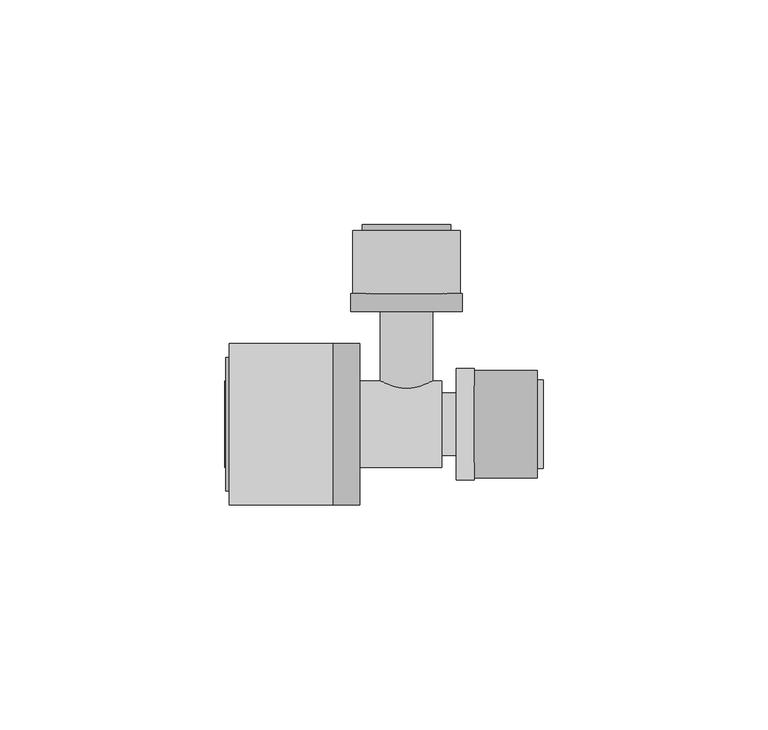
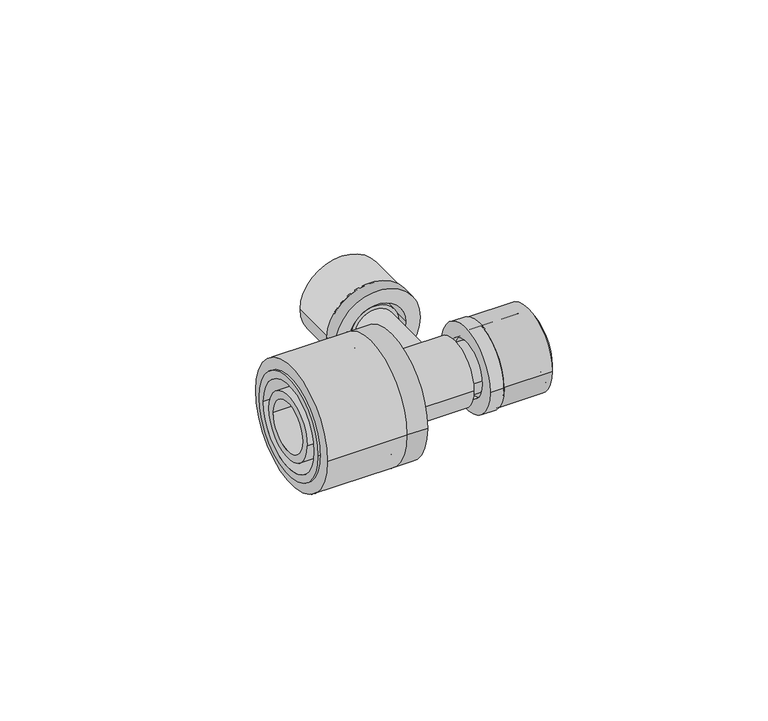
"""IFC4 building model written with IfcOpenShell, lengths in millimetres: pipe fitting geometry, FASTLOC_T-piece_EX+ : FSL T-Piece EX+ AT."""

from ifc_helpers import new_model, si_unit, point, frame, origin, origin_2d, place, context, project, spatial, polyline, circle_curve, trimmed, segment, composite_curve, outline, extrude, source, transform, mapped, element, save
from ifc_brep_helpers import plane_surface, cylinder_surface, revolved_surface, advanced_brep


def pipe_fitting_93b3fcde(model_context):
    return source(origin(), model_context, "Body", "SolidModel", [
        extrude(outline(composite_curve([segment(trimmed(circle_curve(origin_2d(), 12.0), [point((-12.0, 0.0))], [point((12.0, 0.0))], False, "CARTESIAN"), True, "CONTINUOUS"), segment(trimmed(circle_curve(origin_2d(), 12.0), [point((12.0, 0.0))], [point((-12.0, 0.0))], False, "CARTESIAN"), True, "CONTINUOUS")], self_intersect=False), holes=[composite_curve([segment(trimmed(circle_curve(origin_2d(), 8.85), [point((-8.85, 0.0))], [point((8.85, 0.0))], True, "CARTESIAN"), True, "CONTINUOUS"), segment(trimmed(circle_curve(origin_2d(), 8.85), [point((8.85, 0.0))], [point((-8.85, 0.0))], True, "CARTESIAN"), True, "CONTINUOUS")], self_intersect=False)]), frame((15.1, 0.0, 0.0), z_axis=(1.0, 0.0, 0.0), x_axis=(0.0, 1.0, 0.0)), (0.0, 0.0, 1.0), 14.0),
        advanced_brep(
        [(15.1, 12.35, 0.0), (15.1, -12.35, 0.0), (11.1, -12.35, 0.0), (11.1, 12.35, 0.0), (30.4, 9.85, 0.0), (30.4, -9.85, 0.0), (15.1, -9.85, 0.0), (15.1, 9.85, 0.0), (11.1, 8.15, 0.0), (11.1, -8.15, 0.0), (30.4, -8.15, 0.0), (30.4, 8.15, 0.0)],
        [
            (0, 1, circle_curve(frame((15.1, 0.0, 0.0), z_axis=(-1.0, 0.0, 0.0), x_axis=(0.0, -1.0, 0.0)), 12.35)),
            (1, 2),
            (2, 3, circle_curve(frame((11.1, 0.0, 0.0), z_axis=(1.0, 0.0, 0.0), x_axis=(0.0, -1.0, 0.0)), 12.35)),
            (3, 0),
            (4, 5, circle_curve(frame((30.4, 0.0, 0.0), z_axis=(-1.0, 0.0, 0.0), x_axis=(0.0, -1.0, 0.0)), 9.85)),
            (5, 6),
            (6, 7, circle_curve(frame((15.1, 0.0, 0.0), z_axis=(1.0, 0.0, 0.0), x_axis=(0.0, -1.0, 0.0)), 9.85)),
            (7, 4),
            (8, 9, circle_curve(frame((11.1, 0.0, 0.0), z_axis=(-1.0, 0.0, 0.0), x_axis=(0.0, -1.0, 0.0)), 8.15)),
            (9, 10),
            (10, 11, circle_curve(frame((30.4, 0.0, 0.0), z_axis=(1.0, 0.0, 0.0), x_axis=(0.0, -1.0, 0.0)), 8.15)),
            (11, 8),
            (1, 0, circle_curve(frame((15.1, 0.0, 0.0), z_axis=(-1.0, 0.0, 0.0), x_axis=(0.0, 1.0, 0.0)), 12.35)),
            (3, 2, circle_curve(frame((11.1, 0.0, 0.0), z_axis=(1.0, 0.0, 0.0), x_axis=(0.0, 1.0, 0.0)), 12.35)),
            (6, 7, circle_curve(frame((15.1, 0.0, 0.0), z_axis=(-1.0, 0.0, 0.0), x_axis=(0.0, 1.0, 0.0)), 9.85)),
            (5, 4, circle_curve(frame((30.4, 0.0, 0.0), z_axis=(-1.0, 0.0, 0.0), x_axis=(0.0, 1.0, 0.0)), 9.85)),
            (10, 11, circle_curve(frame((30.4, 0.0, 0.0), z_axis=(-1.0, 0.0, 0.0), x_axis=(0.0, 1.0, 0.0)), 8.15)),
            (9, 8, circle_curve(frame((11.1, 0.0, 0.0), z_axis=(-1.0, 0.0, 0.0), x_axis=(0.0, 1.0, 0.0)), 8.15)),
        ],
        [
            cylinder_surface(frame((11.1, 0.0, 0.0), z_axis=(1.0, 0.0, 0.0), x_axis=(0.0, -1.0, 0.0)), 12.35),
            cylinder_surface(frame((11.1, 0.0, 0.0), z_axis=(1.0, 0.0, 0.0), x_axis=(0.0, -1.0, 0.0)), 9.85),
            revolved_surface(polyline([(30.4, -8.15, 0.0), (11.1, -8.15, 0.0)]), (11.1, 0.0, 0.0), (1.0, 0.0, 0.0)),
            cylinder_surface(frame((11.1, 0.0, 0.0), z_axis=(1.0, 0.0, 0.0), x_axis=(0.0, 1.0, 0.0)), 12.35),
            plane_surface(frame((15.1, 0.0, 0.0), z_axis=(1.0, 0.0, 0.0), x_axis=(0.0, 1.0, 0.0))),
            cylinder_surface(frame((11.1, 0.0, 0.0), z_axis=(1.0, 0.0, 0.0), x_axis=(0.0, 1.0, 0.0)), 9.85),
            plane_surface(frame((30.4, 0.0, 0.0), z_axis=(1.0, 0.0, 0.0), x_axis=(0.0, 1.0, 0.0))),
            revolved_surface(polyline([(30.4, 8.15, 0.0), (11.1, 8.15, 0.0)]), (11.1, 0.0, 0.0), (1.0, 0.0, 0.0)),
            plane_surface(frame((11.1, 0.0, 0.0), z_axis=(-1.0, 0.0, 0.0), x_axis=(0.0, 1.0, 0.0))),
        ],
        [
            (0, [[1, 2, 3, 4]]),
            (1, [[5, 6, 7, 8]]),
            (2, [[9, 10, 11, 12]]),
            (3, [[13, -4, 14, -2]]),
            (4, [[-13, -1], [15, -7]]),
            (5, [[16, -8, -15, -6]]),
            (6, [[-16, -5], [17, -11]]),
            (7, [[18, -12, -17, -10]]),
            (8, [[-14, -3], [-18, -9]]),
        ],
    ),
        extrude(outline(composite_curve([segment(trimmed(circle_curve(origin_2d(), 18.0), [point((18.0, 0.0))], [point((-18.0, 0.0))], False, "CARTESIAN"), True, "CONTINUOUS"), segment(trimmed(circle_curve(origin_2d(), 18.0), [point((-18.0, 0.0))], [point((18.0, 0.0))], False, "CARTESIAN"), True, "CONTINUOUS")], self_intersect=False), holes=[composite_curve([segment(trimmed(circle_curve(origin_2d(), 13.5), [point((13.5, 0.0))], [point((-13.5, 0.0))], True, "CARTESIAN"), True, "CONTINUOUS"), segment(trimmed(circle_curve(origin_2d(), 13.5), [point((-13.5, 0.0))], [point((13.5, 0.0))], True, "CARTESIAN"), True, "CONTINUOUS")], self_intersect=False)]), frame((-39.4, 0.0, 0.0), z_axis=(1.0, 0.0, 0.0), x_axis=(0.0, 1.0, 0.0)), (0.0, 0.0, 1.0), 23.0),
        advanced_brep(
        [(-16.4, -18.0, 0.0), (-16.4, 18.0, 0.0), (-10.4, 18.0, 0.0), (-10.4, -18.0, 0.0), (-40.2, -14.85, 0.0), (-40.2, 14.85, 0.0), (-16.4, 14.85, 0.0), (-16.4, -14.85, 0.0), (-10.4, -12.65, 0.0), (-10.4, 12.65, 0.0), (-40.2, 12.65, 0.0), (-40.2, -12.65, 0.0)],
        [
            (0, 1, circle_curve(frame((-16.4, 0.0, 0.0), z_axis=(1.0, 0.0, 0.0), x_axis=(0.0, 1.0, 0.0)), 18.0)),
            (1, 2),
            (2, 3, circle_curve(frame((-10.4, 0.0, 0.0), z_axis=(-1.0, 0.0, 0.0), x_axis=(0.0, 1.0, 0.0)), 18.0)),
            (3, 0),
            (4, 5, circle_curve(frame((-40.2, 0.0, 0.0), z_axis=(1.0, 0.0, 0.0), x_axis=(0.0, 1.0, 0.0)), 14.85)),
            (5, 6),
            (6, 7, circle_curve(frame((-16.4, 0.0, 0.0), z_axis=(-1.0, 0.0, 0.0), x_axis=(0.0, 1.0, 0.0)), 14.85)),
            (7, 4),
            (8, 9, circle_curve(frame((-10.4, 0.0, 0.0), z_axis=(1.0, 0.0, 0.0), x_axis=(0.0, 1.0, 0.0)), 12.65)),
            (9, 10),
            (10, 11, circle_curve(frame((-40.2, 0.0, 0.0), z_axis=(-1.0, 0.0, 0.0), x_axis=(0.0, 1.0, 0.0)), 12.65)),
            (11, 8),
            (1, 0, circle_curve(frame((-16.4, 0.0, 0.0), z_axis=(1.0, 0.0, 0.0), x_axis=(0.0, -1.0, 0.0)), 18.0)),
            (3, 2, circle_curve(frame((-10.4, 0.0, 0.0), z_axis=(-1.0, 0.0, 0.0), x_axis=(0.0, -1.0, 0.0)), 18.0)),
            (6, 7, circle_curve(frame((-16.4, 0.0, 0.0), z_axis=(1.0, 0.0, 0.0), x_axis=(0.0, -1.0, 0.0)), 14.85)),
            (5, 4, circle_curve(frame((-40.2, 0.0, 0.0), z_axis=(1.0, 0.0, 0.0), x_axis=(0.0, -1.0, 0.0)), 14.85)),
            (10, 11, circle_curve(frame((-40.2, 0.0, 0.0), z_axis=(1.0, 0.0, 0.0), x_axis=(0.0, -1.0, 0.0)), 12.65)),
            (9, 8, circle_curve(frame((-10.4, 0.0, 0.0), z_axis=(1.0, 0.0, 0.0), x_axis=(0.0, -1.0, 0.0)), 12.65)),
        ],
        [
            cylinder_surface(frame((-10.4, 0.0, 0.0), z_axis=(-1.0, 0.0, 0.0), x_axis=(0.0, 1.0, 0.0)), 18.0),
            cylinder_surface(frame((-10.4, 0.0, 0.0), z_axis=(-1.0, 0.0, 0.0), x_axis=(0.0, 1.0, 0.0)), 14.85),
            revolved_surface(polyline([(-40.2, 12.65, 0.0), (-10.4, 12.65, 0.0)]), (-10.4, 0.0, 0.0), (-1.0, 0.0, 0.0)),
            cylinder_surface(frame((-10.4, 0.0, 0.0), z_axis=(-1.0, 0.0, 0.0), x_axis=(0.0, -1.0, 0.0)), 18.0),
            plane_surface(frame((-16.4, 0.0, 0.0), z_axis=(-1.0, 0.0, 0.0), x_axis=(0.0, -1.0, 0.0))),
            cylinder_surface(frame((-10.4, 0.0, 0.0), z_axis=(-1.0, 0.0, 0.0), x_axis=(0.0, -1.0, 0.0)), 14.85),
            plane_surface(frame((-40.2, 0.0, 0.0), z_axis=(-1.0, 0.0, 0.0), x_axis=(0.0, -1.0, 0.0))),
            revolved_surface(polyline([(-40.2, -12.65, 0.0), (-10.4, -12.65, 0.0)]), (-10.4, 0.0, 0.0), (-1.0, 0.0, 0.0)),
            plane_surface(frame((-10.4, 0.0, 0.0), z_axis=(1.0, 0.0, 0.0), x_axis=(0.0, -1.0, 0.0))),
        ],
        [
            (0, [[1, 2, 3, 4]]),
            (1, [[5, 6, 7, 8]]),
            (2, [[9, 10, 11, 12]]),
            (3, [[13, -4, 14, -2]]),
            (4, [[-13, -1], [15, -7]]),
            (5, [[16, -8, -15, -6]]),
            (6, [[-16, -5], [17, -11]]),
            (7, [[18, -12, -17, -10]]),
            (8, [[-14, -3], [-18, -9]]),
        ],
    ),
        extrude(outline(composite_curve([segment(trimmed(circle_curve(origin_2d(), 12.0), [point((0.0, 12.0))], [point((0.0, -12.0))], False, "CARTESIAN"), True, "CONTINUOUS"), segment(trimmed(circle_curve(origin_2d(), 12.0), [point((0.0, -12.0))], [point((0.0, 12.0))], False, "CARTESIAN"), True, "CONTINUOUS")], self_intersect=False), holes=[composite_curve([segment(trimmed(circle_curve(origin_2d(), 8.85), [point((0.0, 8.85))], [point((0.0, -8.85))], True, "CARTESIAN"), True, "CONTINUOUS"), segment(trimmed(circle_curve(origin_2d(), 8.85), [point((0.0, -8.85))], [point((0.0, 8.85))], True, "CARTESIAN"), True, "CONTINUOUS")], self_intersect=False)]), frame((0.0, 29.1, 0.0), z_axis=(0.0, 1.0, 0.0), x_axis=(0.0, 0.0, 1.0)), (0.0, 0.0, 1.0), 14.0),
        advanced_brep(
        [(-12.35, 29.1, 0.0), (12.35, 29.1, 0.0), (12.35, 25.1, 0.0), (-12.35, 25.1, 0.0), (-9.85, 44.4, 0.0), (9.85, 44.4, 0.0), (9.85, 29.1, 0.0), (-9.85, 29.1, 0.0), (-8.15, 25.1, 0.0), (8.15, 25.1, 0.0), (8.15, 44.4, 0.0), (-8.15, 44.4, 0.0)],
        [
            (0, 1, circle_curve(frame((0.0, 29.1, 0.0), z_axis=(0.0, -1.0, 0.0), x_axis=(1.0, 0.0, 0.0)), 12.35)),
            (1, 2),
            (2, 3, circle_curve(frame((0.0, 25.1, 0.0), z_axis=(0.0, 1.0, 0.0), x_axis=(1.0, 0.0, 0.0)), 12.35)),
            (3, 0),
            (4, 5, circle_curve(frame((0.0, 44.4, 0.0), z_axis=(0.0, -1.0, 0.0), x_axis=(1.0, 0.0, 0.0)), 9.85)),
            (5, 6),
            (6, 7, circle_curve(frame((0.0, 29.1, 0.0), z_axis=(0.0, 1.0, 0.0), x_axis=(1.0, 0.0, 0.0)), 9.85)),
            (7, 4),
            (8, 9, circle_curve(frame((0.0, 25.1, 0.0), z_axis=(0.0, -1.0, 0.0), x_axis=(1.0, 0.0, 0.0)), 8.15)),
            (9, 10),
            (10, 11, circle_curve(frame((0.0, 44.4, 0.0), z_axis=(0.0, 1.0, 0.0), x_axis=(1.0, 0.0, 0.0)), 8.15)),
            (11, 8),
            (1, 0, circle_curve(frame((0.0, 29.1, 0.0), z_axis=(0.0, -1.0, 0.0), x_axis=(-1.0, 0.0, 0.0)), 12.35)),
            (3, 2, circle_curve(frame((0.0, 25.1, 0.0), z_axis=(0.0, 1.0, 0.0), x_axis=(-1.0, 0.0, 0.0)), 12.35)),
            (6, 7, circle_curve(frame((0.0, 29.1, 0.0), z_axis=(0.0, -1.0, 0.0), x_axis=(-1.0, 0.0, 0.0)), 9.85)),
            (5, 4, circle_curve(frame((0.0, 44.4, 0.0), z_axis=(0.0, -1.0, 0.0), x_axis=(-1.0, 0.0, 0.0)), 9.85)),
            (10, 11, circle_curve(frame((0.0, 44.4, 0.0), z_axis=(0.0, -1.0, 0.0), x_axis=(-1.0, 0.0, 0.0)), 8.15)),
            (9, 8, circle_curve(frame((0.0, 25.1, 0.0), z_axis=(0.0, -1.0, 0.0), x_axis=(-1.0, 0.0, 0.0)), 8.15)),
        ],
        [
            cylinder_surface(frame((0.0, 25.1, 0.0), z_axis=(0.0, 1.0, 0.0), x_axis=(1.0, 0.0, 0.0)), 12.35),
            cylinder_surface(frame((0.0, 25.1, 0.0), z_axis=(0.0, 1.0, 0.0), x_axis=(1.0, 0.0, 0.0)), 9.85),
            revolved_surface(polyline([(8.15, 44.4, 0.0), (8.15, 25.1, 0.0)]), (0.0, 25.1, 0.0), (0.0, 1.0, 0.0)),
            cylinder_surface(frame((0.0, 25.1, 0.0), z_axis=(0.0, 1.0, 0.0), x_axis=(-1.0, 0.0, 0.0)), 12.35),
            plane_surface(frame((0.0, 29.1, 0.0), z_axis=(0.0, 1.0, 0.0), x_axis=(-1.0, 0.0, 0.0))),
            cylinder_surface(frame((0.0, 25.1, 0.0), z_axis=(0.0, 1.0, 0.0), x_axis=(-1.0, 0.0, 0.0)), 9.85),
            plane_surface(frame((0.0, 44.4, 0.0), z_axis=(0.0, 1.0, 0.0), x_axis=(-1.0, 0.0, 0.0))),
            revolved_surface(polyline([(-8.15, 44.4, 0.0), (-8.15, 25.1, 0.0)]), (0.0, 25.1, 0.0), (0.0, 1.0, 0.0)),
            plane_surface(frame((0.0, 25.1, 0.0), z_axis=(0.0, -1.0, 0.0), x_axis=(-1.0, 0.0, 0.0))),
        ],
        [
            (0, [[1, 2, 3, 4]]),
            (1, [[5, 6, 7, 8]]),
            (2, [[9, 10, 11, 12]]),
            (3, [[13, -4, 14, -2]]),
            (4, [[-13, -1], [15, -7]]),
            (5, [[16, -8, -15, -6]]),
            (6, [[-16, -5], [17, -11]]),
            (7, [[18, -12, -17, -10]]),
            (8, [[-14, -3], [-18, -9]]),
        ],
    ),
        advanced_brep(
        [(12.39, 6.95, 0.0), (12.39, -6.95, 0.0), (7.85, -6.95, 0.0), (7.85, 6.95, 0.0), (15.1, 8.05, 0.0), (15.1, -8.05, 0.0), (12.39, -8.05, 0.0), (12.39, 8.05, 0.0), (30.1, 6.95, 0.0), (30.1, -6.95, 0.0), (15.1, -6.95, 0.0), (15.1, 6.95, 0.0), (6.0, 5.1, 0.0), (6.0, -5.1, 0.0), (30.1, -5.1, 0.0), (30.1, 5.1, 0.0), (-40.4, 7.35, 0.0), (-40.4, -7.35, 0.0), (6.0, -7.35, 0.0), (6.0, 7.35, 0.0), (-16.4, 9.6, 0.0), (-16.4, -9.6, 0.0), (-40.4, -9.6, 0.0), (-40.4, 9.6, 0.0), (-13.6, 11.1, 0.0), (-13.6, -11.1, 0.0), (-16.4, -11.1, 0.0), (-16.4, 11.1, 0.0), (7.85, 9.6, 0.0), (7.85, -9.6, 0.0), (-13.6, -9.6, 0.0), (-13.6, 9.6, 0.0)],
        [
            (0, 1, circle_curve(frame((12.39, 0.0, 0.0), z_axis=(-1.0, 0.0, 0.0), x_axis=(0.0, -1.0, 0.0)), 6.95)),
            (1, 2),
            (2, 3, circle_curve(frame((7.85, 0.0, 0.0), z_axis=(1.0, 0.0, 0.0), x_axis=(0.0, -1.0, 0.0)), 6.95)),
            (3, 0),
            (4, 5, circle_curve(frame((15.1, 0.0, 0.0), z_axis=(-1.0, 0.0, 0.0), x_axis=(0.0, -1.0, 0.0)), 8.05)),
            (5, 6),
            (6, 7, circle_curve(frame((12.39, 0.0, 0.0), z_axis=(1.0, 0.0, 0.0), x_axis=(0.0, -1.0, 0.0)), 8.05)),
            (7, 4),
            (8, 9, circle_curve(frame((30.1, 0.0, 0.0), z_axis=(-1.0, 0.0, 0.0), x_axis=(0.0, -1.0, 0.0)), 6.95)),
            (9, 10),
            (10, 11, circle_curve(frame((15.1, 0.0, 0.0), z_axis=(1.0, 0.0, 0.0), x_axis=(0.0, -1.0, 0.0)), 6.95)),
            (11, 8),
            (12, 13, circle_curve(frame((6.0, 0.0, 0.0), z_axis=(-1.0, 0.0, 0.0), x_axis=(0.0, -1.0, 0.0)), 5.1)),
            (13, 14),
            (14, 15, circle_curve(frame((30.1, 0.0, 0.0), z_axis=(1.0, 0.0, 0.0), x_axis=(0.0, -1.0, 0.0)), 5.1)),
            (15, 12),
            (16, 17, circle_curve(frame((-40.4, 0.0, 0.0), z_axis=(-1.0, 0.0, 0.0), x_axis=(0.0, -1.0, 0.0)), 7.35)),
            (17, 18),
            (18, 19, circle_curve(frame((6.0, 0.0, 0.0), z_axis=(1.0, 0.0, 0.0), x_axis=(0.0, -1.0, 0.0)), 7.35)),
            (19, 16),
            (20, 21, circle_curve(frame((-16.4, 0.0, 0.0), z_axis=(-1.0, 0.0, 0.0), x_axis=(0.0, -1.0, 0.0)), 9.6)),
            (21, 22),
            (22, 23, circle_curve(frame((-40.4, 0.0, 0.0), z_axis=(1.0, 0.0, 0.0), x_axis=(0.0, -1.0, 0.0)), 9.6)),
            (23, 20),
            (24, 25, circle_curve(frame((-13.6, 0.0, 0.0), z_axis=(-1.0, 0.0, 0.0), x_axis=(0.0, -1.0, 0.0)), 11.1)),
            (25, 26),
            (26, 27, circle_curve(frame((-16.4, 0.0, 0.0), z_axis=(1.0, 0.0, 0.0), x_axis=(0.0, -1.0, 0.0)), 11.1)),
            (27, 24),
            (28, 29, circle_curve(frame((7.85, 0.0, 0.0), z_axis=(-1.0, 0.0, 0.0), x_axis=(0.0, -1.0, 0.0)), 9.6)),
            (29, 30),
            (30, 31, circle_curve(frame((-13.6, 0.0, 0.0), z_axis=(1.0, 0.0, 0.0), x_axis=(0.0, -1.0, 0.0)), 9.6)),
            (31, 28),
            (28, 29, circle_curve(frame((7.85, 0.0, 0.0), z_axis=(1.0, 0.0, 0.0), x_axis=(0.0, 1.0, 0.0)), 9.6)),
            (2, 3, circle_curve(frame((7.85, 0.0, 0.0), z_axis=(-1.0, 0.0, 0.0), x_axis=(0.0, 1.0, 0.0)), 6.95)),
            (1, 0, circle_curve(frame((12.39, 0.0, 0.0), z_axis=(-1.0, 0.0, 0.0), x_axis=(0.0, 1.0, 0.0)), 6.95)),
            (6, 7, circle_curve(frame((12.39, 0.0, 0.0), z_axis=(-1.0, 0.0, 0.0), x_axis=(0.0, 1.0, 0.0)), 8.05)),
            (5, 4, circle_curve(frame((15.1, 0.0, 0.0), z_axis=(-1.0, 0.0, 0.0), x_axis=(0.0, 1.0, 0.0)), 8.05)),
            (10, 11, circle_curve(frame((15.1, 0.0, 0.0), z_axis=(-1.0, 0.0, 0.0), x_axis=(0.0, 1.0, 0.0)), 6.95)),
            (9, 8, circle_curve(frame((30.1, 0.0, 0.0), z_axis=(-1.0, 0.0, 0.0), x_axis=(0.0, 1.0, 0.0)), 6.95)),
            (14, 15, circle_curve(frame((30.1, 0.0, 0.0), z_axis=(-1.0, 0.0, 0.0), x_axis=(0.0, 1.0, 0.0)), 5.1)),
            (13, 12, circle_curve(frame((6.0, 0.0, 0.0), z_axis=(-1.0, 0.0, 0.0), x_axis=(0.0, 1.0, 0.0)), 5.1)),
            (18, 19, circle_curve(frame((6.0, 0.0, 0.0), z_axis=(-1.0, 0.0, 0.0), x_axis=(0.0, 1.0, 0.0)), 7.35)),
            (17, 16, circle_curve(frame((-40.4, 0.0, 0.0), z_axis=(-1.0, 0.0, 0.0), x_axis=(0.0, 1.0, 0.0)), 7.35)),
            (22, 23, circle_curve(frame((-40.4, 0.0, 0.0), z_axis=(-1.0, 0.0, 0.0), x_axis=(0.0, 1.0, 0.0)), 9.6)),
            (21, 20, circle_curve(frame((-16.4, 0.0, 0.0), z_axis=(-1.0, 0.0, 0.0), x_axis=(0.0, 1.0, 0.0)), 9.6)),
            (26, 27, circle_curve(frame((-16.4, 0.0, 0.0), z_axis=(-1.0, 0.0, 0.0), x_axis=(0.0, 1.0, 0.0)), 11.1)),
            (25, 24, circle_curve(frame((-13.6, 0.0, 0.0), z_axis=(-1.0, 0.0, 0.0), x_axis=(0.0, 1.0, 0.0)), 11.1)),
            (30, 31, circle_curve(frame((-13.6, 0.0, 0.0), z_axis=(-1.0, 0.0, 0.0), x_axis=(0.0, 1.0, 0.0)), 9.6)),
        ],
        [
            cylinder_surface(frame((0.0, 0.0, 0.0), z_axis=(1.0, 0.0, 0.0), x_axis=(0.0, -1.0, 0.0)), 6.95),
            cylinder_surface(frame((0.0, 0.0, 0.0), z_axis=(1.0, 0.0, 0.0), x_axis=(0.0, -1.0, 0.0)), 8.05),
            revolved_surface(polyline([(30.1, -5.1, 0.0), (6.0, -5.1, 0.0)]), (0.0, 0.0, 0.0), (1.0, 0.0, 0.0)),
            revolved_surface(polyline([(6.0, -7.35, 0.0), (-40.4, -7.35, 0.0)]), (0.0, 0.0, 0.0), (1.0, 0.0, 0.0)),
            cylinder_surface(frame((0.0, 0.0, 0.0), z_axis=(1.0, 0.0, 0.0), x_axis=(0.0, -1.0, 0.0)), 9.6),
            cylinder_surface(frame((0.0, 0.0, 0.0), z_axis=(1.0, 0.0, 0.0), x_axis=(0.0, -1.0, 0.0)), 11.1),
            plane_surface(frame((7.85, 0.0, 0.0), z_axis=(1.0, 0.0, 0.0), x_axis=(0.0, 1.0, 0.0))),
            cylinder_surface(frame((0.0, 0.0, 0.0), z_axis=(1.0, 0.0, 0.0), x_axis=(0.0, 1.0, 0.0)), 6.95),
            plane_surface(frame((12.39, 0.0, 0.0), z_axis=(-1.0, 0.0, 0.0), x_axis=(0.0, 1.0, 0.0))),
            cylinder_surface(frame((0.0, 0.0, 0.0), z_axis=(1.0, 0.0, 0.0), x_axis=(0.0, 1.0, 0.0)), 8.05),
            plane_surface(frame((15.1, 0.0, 0.0), z_axis=(1.0, 0.0, 0.0), x_axis=(0.0, 1.0, 0.0))),
            plane_surface(frame((30.1, 0.0, 0.0), z_axis=(1.0, 0.0, 0.0), x_axis=(0.0, 1.0, 0.0))),
            revolved_surface(polyline([(30.1, 5.1, 0.0), (6.0, 5.1, 0.0)]), (0.0, 0.0, 0.0), (1.0, 0.0, 0.0)),
            plane_surface(frame((6.0, 0.0, 0.0), z_axis=(-1.0, 0.0, 0.0), x_axis=(0.0, 1.0, 0.0))),
            revolved_surface(polyline([(6.0, 7.35, 0.0), (-40.4, 7.35, 0.0)]), (0.0, 0.0, 0.0), (1.0, 0.0, 0.0)),
            plane_surface(frame((-40.4, 0.0, 0.0), z_axis=(-1.0, 0.0, 0.0), x_axis=(0.0, 1.0, 0.0))),
            cylinder_surface(frame((0.0, 0.0, 0.0), z_axis=(1.0, 0.0, 0.0), x_axis=(0.0, 1.0, 0.0)), 9.6),
            plane_surface(frame((-16.4, 0.0, 0.0), z_axis=(-1.0, 0.0, 0.0), x_axis=(0.0, 1.0, 0.0))),
            cylinder_surface(frame((0.0, 0.0, 0.0), z_axis=(1.0, 0.0, 0.0), x_axis=(0.0, 1.0, 0.0)), 11.1),
            plane_surface(frame((-13.6, 0.0, 0.0), z_axis=(1.0, 0.0, 0.0), x_axis=(0.0, 1.0, 0.0))),
        ],
        [
            (0, [[1, 2, 3, 4]]),
            (1, [[5, 6, 7, 8]]),
            (0, [[9, 10, 11, 12]]),
            (2, [[13, 14, 15, 16]]),
            (3, [[17, 18, 19, 20]]),
            (4, [[21, 22, 23, 24]]),
            (5, [[25, 26, 27, 28]]),
            (4, [[29, 30, 31, 32]]),
            (6, [[33, -29], [34, -3]]),
            (7, [[35, -4, -34, -2]]),
            (8, [[36, -7], [-35, -1]]),
            (9, [[37, -8, -36, -6]]),
            (10, [[-37, -5], [38, -11]]),
            (7, [[39, -12, -38, -10]]),
            (11, [[-39, -9], [40, -15]]),
            (12, [[41, -16, -40, -14]]),
            (13, [[42, -19], [-41, -13]]),
            (14, [[43, -20, -42, -18]]),
            (15, [[44, -23], [-43, -17]]),
            (16, [[45, -24, -44, -22]]),
            (17, [[46, -27], [-45, -21]]),
            (18, [[47, -28, -46, -26]]),
            (19, [[-47, -25], [48, -31]]),
            (16, [[-33, -32, -48, -30]]),
        ],
    ),
        advanced_brep(
        [(3.95, 44.1, 0.0), (-3.95, 44.1, 0.0), (-3.95, 0.0, 0.0), (3.95, 0.0, 0.0), (5.8, 0.0, 0.0), (-5.8, 0.0, 0.0), (-5.8, 26.39, 0.0), (5.8, 26.39, 0.0), (6.9, 26.39, 0.0), (-6.9, 26.39, 0.0), (-6.9, 29.1, 0.0), (6.9, 29.1, 0.0), (5.8, 29.1, 0.0), (-5.8, 29.1, 0.0), (-5.8, 44.1, 0.0), (5.8, 44.1, 0.0)],
        [
            (0, 1, circle_curve(frame((0.0, 44.1, 0.0), z_axis=(0.0, 1.0, 0.0), x_axis=(-1.0, 0.0, 0.0)), 3.95)),
            (1, 2),
            (2, 3, circle_curve(frame((0.0, 0.0, 0.0), z_axis=(0.0, -1.0, 0.0), x_axis=(-1.0, 0.0, 0.0)), 3.95)),
            (3, 0),
            (4, 5, circle_curve(frame((0.0, 0.0, 0.0), z_axis=(0.0, 1.0, 0.0), x_axis=(-1.0, 0.0, 0.0)), 5.8)),
            (5, 6),
            (6, 7, circle_curve(frame((0.0, 26.39, 0.0), z_axis=(0.0, -1.0, 0.0), x_axis=(-1.0, 0.0, 0.0)), 5.8)),
            (7, 4),
            (8, 9, circle_curve(frame((0.0, 26.39, 0.0), z_axis=(0.0, 1.0, 0.0), x_axis=(-1.0, 0.0, 0.0)), 6.9)),
            (9, 10),
            (10, 11, circle_curve(frame((0.0, 29.1, 0.0), z_axis=(0.0, -1.0, 0.0), x_axis=(-1.0, 0.0, 0.0)), 6.9)),
            (11, 8),
            (12, 13, circle_curve(frame((0.0, 29.1, 0.0), z_axis=(0.0, 1.0, 0.0), x_axis=(-1.0, 0.0, 0.0)), 5.8)),
            (13, 14),
            (14, 15, circle_curve(frame((0.0, 44.1, 0.0), z_axis=(0.0, -1.0, 0.0), x_axis=(-1.0, 0.0, 0.0)), 5.8)),
            (15, 12),
            (1, 0, circle_curve(frame((0.0, 44.1, 0.0), z_axis=(0.0, 1.0, 0.0), x_axis=(1.0, 0.0, 0.0)), 3.95)),
            (3, 2, circle_curve(frame((0.0, 0.0, 0.0), z_axis=(0.0, -1.0, 0.0), x_axis=(1.0, 0.0, 0.0)), 3.95)),
            (4, 5, circle_curve(frame((0.0, 0.0, 0.0), z_axis=(0.0, -1.0, 0.0), x_axis=(1.0, 0.0, 0.0)), 5.8)),
            (7, 6, circle_curve(frame((0.0, 26.39, 0.0), z_axis=(0.0, -1.0, 0.0), x_axis=(1.0, 0.0, 0.0)), 5.8)),
            (8, 9, circle_curve(frame((0.0, 26.39, 0.0), z_axis=(0.0, -1.0, 0.0), x_axis=(1.0, 0.0, 0.0)), 6.9)),
            (11, 10, circle_curve(frame((0.0, 29.1, 0.0), z_axis=(0.0, -1.0, 0.0), x_axis=(1.0, 0.0, 0.0)), 6.9)),
            (12, 13, circle_curve(frame((0.0, 29.1, 0.0), z_axis=(0.0, -1.0, 0.0), x_axis=(1.0, 0.0, 0.0)), 5.8)),
            (15, 14, circle_curve(frame((0.0, 44.1, 0.0), z_axis=(0.0, -1.0, 0.0), x_axis=(1.0, 0.0, 0.0)), 5.8)),
        ],
        [
            revolved_surface(polyline([(-3.95, 0.0, 0.0), (-3.95, 44.1, 0.0)]), (0.0, 0.0, 0.0), (0.0, -1.0, 0.0)),
            cylinder_surface(frame((0.0, 0.0, 0.0), z_axis=(0.0, -1.0, 0.0), x_axis=(-1.0, 0.0, 0.0)), 5.8),
            cylinder_surface(frame((0.0, 0.0, 0.0), z_axis=(0.0, -1.0, 0.0), x_axis=(-1.0, 0.0, 0.0)), 6.9),
            revolved_surface(polyline([(3.95, 0.0, 0.0), (3.95, 44.1, 0.0)]), (0.0, 0.0, 0.0), (0.0, -1.0, 0.0)),
            plane_surface(frame((0.0, 0.0, 0.0), z_axis=(0.0, -1.0, 0.0), x_axis=(1.0, 0.0, 0.0))),
            cylinder_surface(frame((0.0, 0.0, 0.0), z_axis=(0.0, -1.0, 0.0), x_axis=(1.0, 0.0, 0.0)), 5.8),
            plane_surface(frame((0.0, 26.39, 0.0), z_axis=(0.0, -1.0, 0.0), x_axis=(1.0, 0.0, 0.0))),
            cylinder_surface(frame((0.0, 0.0, 0.0), z_axis=(0.0, -1.0, 0.0), x_axis=(1.0, 0.0, 0.0)), 6.9),
            plane_surface(frame((0.0, 29.1, 0.0), z_axis=(0.0, 1.0, 0.0), x_axis=(1.0, 0.0, 0.0))),
            plane_surface(frame((0.0, 44.1, 0.0), z_axis=(0.0, 1.0, 0.0), x_axis=(1.0, 0.0, 0.0))),
        ],
        [
            (0, [[1, 2, 3, 4]]),
            (1, [[5, 6, 7, 8]]),
            (2, [[9, 10, 11, 12]]),
            (1, [[13, 14, 15, 16]]),
            (3, [[17, -4, 18, -2]]),
            (4, [[19, -5], [-18, -3]]),
            (5, [[-19, -8, 20, -6]]),
            (6, [[21, -9], [-20, -7]]),
            (7, [[-21, -12, 22, -10]]),
            (8, [[-22, -11], [23, -13]]),
            (5, [[-23, -16, 24, -14]]),
            (9, [[-24, -15], [-17, -1]]),
        ],
    ),
    ])


if __name__ == "__main__":
    model = new_model("IFC4")
    model_context = context("Model", 3, world=origin())
    ifc_project = project(units=[si_unit("LENGTHUNIT", "METRE", prefix="MILLI")], contexts=[model_context])
    site = spatial("IfcSite", under=ifc_project)
    building = spatial("IfcBuilding", under=site)
    placement = place(None, origin())
    pipe_fitting_shape = pipe_fitting_93b3fcde(model_context)
    element("IfcPipeFitting", 1, ObjectType="FASTLOC_T-piece_EX+ : FSL T-Piece EX+ AT", at=placement, inside=building, context=model_context, shape_type="MappedRepresentation", body=[
        mapped(pipe_fitting_shape, transform((0.0, 0.0, 0.0), x_axis=(1.0, 0.0, 0.0), y_axis=(0.0, 1.0, 0.0), z_axis=(0.0, 0.0, 1.0))),
    ])
    save(model, "model.ifc")
